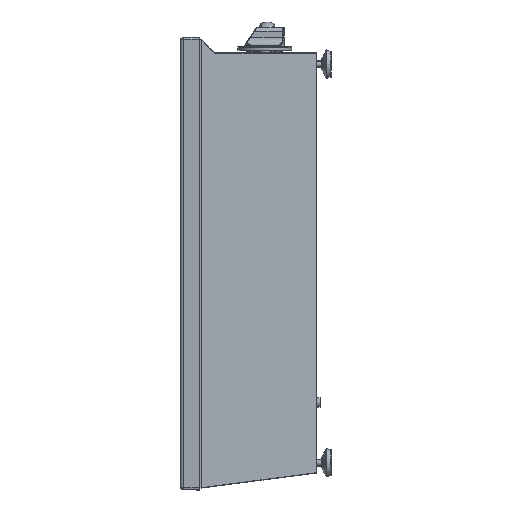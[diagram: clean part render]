
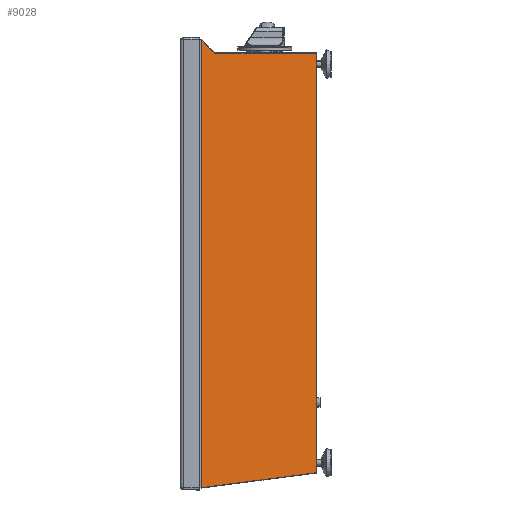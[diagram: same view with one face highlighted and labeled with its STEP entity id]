
A CAD part, left-side view. The second image highlights one B-rep face of the part: STEP entity #9028.
In plain terms, the highlighted planar face has unit normal (-0.992, -0.13, 0) by its records, which use the part's own axes.
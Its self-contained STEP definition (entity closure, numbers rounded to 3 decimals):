
#43 = EDGE_CURVE ( 'NONE', #8286, #6077, #25374, .T. ) ;
#452 = DIRECTION ( 'NONE',  ( -0.092, 0.704, 0.704 ) ) ;
#1962 = VERTEX_POINT ( 'NONE', #12976 ) ;
#2338 = FACE_OUTER_BOUND ( 'NONE', #30800, .T. ) ;
#2767 = CARTESIAN_POINT ( 'NONE',  ( -427.5, -176.5, 279. ) ) ;
#2880 = CARTESIAN_POINT ( 'NONE',  ( -427.5, -176.5, -297.5 ) ) ;
#3095 = ORIENTED_EDGE ( 'NONE', *, *, #24413, .T. ) ;
#4410 = CARTESIAN_POINT ( 'NONE',  ( -447.5, -24., 296.439 ) ) ;
#5054 = CARTESIAN_POINT ( 'NONE',  ( -447.307, -25.469, 295.389 ) ) ;
#5323 = B_SPLINE_CURVE_WITH_KNOTS ( 'NONE', 3,
 ( #33713, #9143, #6412, #20714, #12017, #17829 ),
 .UNSPECIFIED., .F., .F.,
 ( 4, 2, 4 ),
 ( 0., 0.5, 1. ),
 .UNSPECIFIED. ) ;
#6077 = VERTEX_POINT ( 'NONE', #7554 ) ;
#6412 = CARTESIAN_POINT ( 'NONE',  ( -445.088, -42.39, 279.092 ) ) ;
#6519 = EDGE_CURVE ( 'NONE', #6077, #15335, #16553, .T. ) ;
#7554 = CARTESIAN_POINT ( 'NONE',  ( -447.449, -24.39, -296.945 ) ) ;
#8286 = VERTEX_POINT ( 'NONE', #11193 ) ;
#8889 = CARTESIAN_POINT ( 'NONE',  ( -447.483, -24.13, -296.974 ) ) ;
#9028 = ADVANCED_FACE ( 'NONE', ( #2338 ), #10479, .F. ) ;
#9143 = CARTESIAN_POINT ( 'NONE',  ( -445.028, -42.85, 279. ) ) ;
#9669 = VECTOR ( 'NONE', #12648, 1000. ) ;
#10004 = ORIENTED_EDGE ( 'NONE', *, *, #43, .T. ) ;
#10479 = PLANE ( 'NONE',  #14782 ) ;
#10907 = LINE ( 'NONE', #17237, #13115 ) ;
#11193 = CARTESIAN_POINT ( 'NONE',  ( -447.5, -24., -296.982 ) ) ;
#11641 = LINE ( 'NONE', #16920, #15458 ) ;
#12017 = CARTESIAN_POINT ( 'NONE',  ( -445.25, -41.157, 279.701 ) ) ;
#12648 = DIRECTION ( 'NONE',  ( 0., 0., -1. ) ) ;
#12976 = CARTESIAN_POINT ( 'NONE',  ( -444.968, -43.308, 279. ) ) ;
#13115 = VECTOR ( 'NONE', #27707, 1000. ) ;
#13599 = B_SPLINE_CURVE_WITH_KNOTS ( 'NONE', 3,
 ( #5054, #20804, #18101, #4410 ),
 .UNSPECIFIED., .F., .F.,
 ( 4, 4 ),
 ( 0., 1. ),
 .UNSPECIFIED. ) ;
#14321 = VERTEX_POINT ( 'NONE', #19208 ) ;
#14670 = EDGE_CURVE ( 'NONE', #30285, #14321, #13599, .T. ) ;
#14782 = AXIS2_PLACEMENT_3D ( 'NONE', #2880, #35578, #24925 ) ;
#15129 = VERTEX_POINT ( 'NONE', #19550 ) ;
#15196 = ORIENTED_EDGE ( 'NONE', *, *, #21494, .T. ) ;
#15335 = VERTEX_POINT ( 'NONE', #25322 ) ;
#15375 = CARTESIAN_POINT ( 'NONE',  ( -447.5, -24., -294.475 ) ) ;
#15458 = VECTOR ( 'NONE', #452, 1000. ) ;
#16088 = ORIENTED_EDGE ( 'NONE', *, *, #19002, .T. ) ;
#16553 = LINE ( 'NONE', #19437, #26554 ) ;
#16920 = CARTESIAN_POINT ( 'NONE',  ( -398.773, -395.545, -74.687 ) ) ;
#17237 = CARTESIAN_POINT ( 'NONE',  ( -427.5, -176.5, -297.5 ) ) ;
#17829 = CARTESIAN_POINT ( 'NONE',  ( -445.292, -40.833, 280.025 ) ) ;
#18101 = CARTESIAN_POINT ( 'NONE',  ( -447.429, -24.544, 296.172 ) ) ;
#18344 = VECTOR ( 'NONE', #32775, 1000. ) ;
#18593 = ORIENTED_EDGE ( 'NONE', *, *, #23051, .T. ) ;
#19002 = EDGE_CURVE ( 'NONE', #14321, #8286, #34867, .T. ) ;
#19025 = ORIENTED_EDGE ( 'NONE', *, *, #22627, .T. ) ;
#19208 = CARTESIAN_POINT ( 'NONE',  ( -447.5, -24., 296.439 ) ) ;
#19437 = CARTESIAN_POINT ( 'NONE',  ( -427.841, -173.9, -277.337 ) ) ;
#19546 = CARTESIAN_POINT ( 'NONE',  ( -447.307, -25.469, 295.389 ) ) ;
#19550 = CARTESIAN_POINT ( 'NONE',  ( -445.292, -40.833, 280.025 ) ) ;
#19737 = CARTESIAN_POINT ( 'NONE',  ( -447.5, -24., -296.982 ) ) ;
#19791 = DIRECTION ( 'NONE',  ( 0.129, -0.983, 0.129 ) ) ;
#20092 = CARTESIAN_POINT ( 'NONE',  ( -447.466, -24.26, -296.962 ) ) ;
#20211 = ORIENTED_EDGE ( 'NONE', *, *, #6519, .T. ) ;
#20714 = CARTESIAN_POINT ( 'NONE',  ( -445.199, -41.546, 279.441 ) ) ;
#20804 = CARTESIAN_POINT ( 'NONE',  ( -447.363, -25.042, 295.816 ) ) ;
#21494 = EDGE_CURVE ( 'NONE', #1962, #15129, #5323, .T. ) ;
#22627 = EDGE_CURVE ( 'NONE', #26557, #1962, #35303, .T. ) ;
#23051 = EDGE_CURVE ( 'NONE', #15129, #30285, #11641, .T. ) ;
#23796 = ORIENTED_EDGE ( 'NONE', *, *, #14670, .T. ) ;
#24413 = EDGE_CURVE ( 'NONE', #15335, #26557, #10907, .T. ) ;
#24474 = CARTESIAN_POINT ( 'NONE',  ( -427.5, -176.5, 279. ) ) ;
#24925 = DIRECTION ( 'NONE',  ( -0.13, 0.992, 0. ) ) ;
#25322 = CARTESIAN_POINT ( 'NONE',  ( -427.5, -176.5, -276.996 ) ) ;
#25374 = B_SPLINE_CURVE_WITH_KNOTS ( 'NONE', 3,
 ( #19737, #8889, #20092, #31105 ),
 .UNSPECIFIED., .F., .F.,
 ( 4, 4 ),
 ( 0., 1. ),
 .UNSPECIFIED. ) ;
#26554 = VECTOR ( 'NONE', #19791, 1000. ) ;
#26557 = VERTEX_POINT ( 'NONE', #2767 ) ;
#27707 = DIRECTION ( 'NONE',  ( 0., 0., 1. ) ) ;
#30285 = VERTEX_POINT ( 'NONE', #19546 ) ;
#30800 = EDGE_LOOP ( 'NONE', ( #16088, #10004, #20211, #3095, #19025, #15196, #18593, #23796 ) ) ;
#31105 = CARTESIAN_POINT ( 'NONE',  ( -447.449, -24.39, -296.945 ) ) ;
#32775 = DIRECTION ( 'NONE',  ( -0.13, 0.992, 0. ) ) ;
#33713 = CARTESIAN_POINT ( 'NONE',  ( -444.968, -43.308, 279. ) ) ;
#34867 = LINE ( 'NONE', #15375, #9669 ) ;
#35303 = LINE ( 'NONE', #24474, #18344 ) ;
#35578 = DIRECTION ( 'NONE',  ( 0.992, 0.13, 0. ) ) ;
